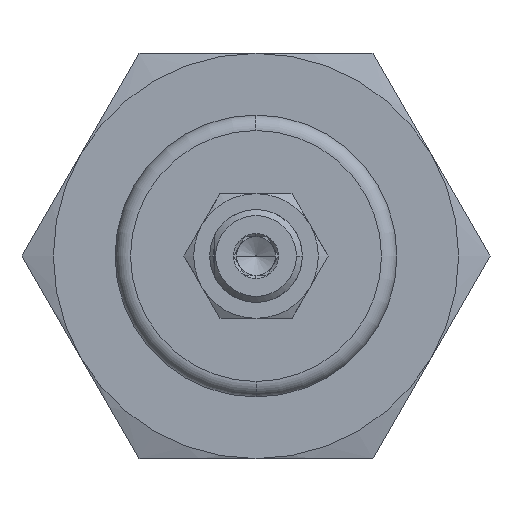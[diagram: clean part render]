
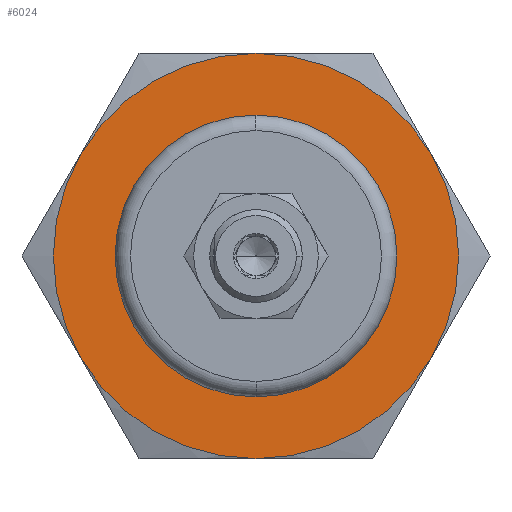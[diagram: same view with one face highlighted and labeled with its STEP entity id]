
A CAD part, left-side view. The second image highlights one B-rep face of the part: STEP entity #6024.
In plain terms, the highlighted planar face has unit normal (-1, 0, 0).
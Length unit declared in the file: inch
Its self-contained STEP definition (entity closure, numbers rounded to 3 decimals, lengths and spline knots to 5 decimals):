
#102=CARTESIAN_POINT('',(-0.63,0.565,0.));
#103=VERTEX_POINT('',#102);
#128=CARTESIAN_POINT('',(-0.63,-0.565,0.));
#129=VERTEX_POINT('',#128);
#136=CARTESIAN_POINT('',(-0.63,0.0,0.));
#137=DIRECTION('',(1.0,0.0,0.0));
#138=DIRECTION('',(0.0,1.0,0.0));
#139=AXIS2_PLACEMENT_3D('',#136,#137,#138);
#140=CIRCLE('',#139,0.565);
#141=EDGE_CURVE('',#103,#129,#140,.T.);
#5388=CARTESIAN_POINT('',(-0.63,0.0,0.));
#5389=DIRECTION('',(1.0,0.0,0.0));
#5390=DIRECTION('',(0.0,1.0,0.0));
#5391=AXIS2_PLACEMENT_3D('',#5388,#5389,#5390);
#5392=CIRCLE('',#5391,0.565);
#5393=EDGE_CURVE('',#129,#103,#5392,.T.);
#5429=CARTESIAN_POINT('',(-0.63,0.70365,0.40625));
#5430=VERTEX_POINT('',#5429);
#5511=CARTESIAN_POINT('',(-0.63,0.70365,-0.40625));
#5512=VERTEX_POINT('',#5511);
#5575=CARTESIAN_POINT('',(-0.63,0.0,0.8125));
#5576=VERTEX_POINT('',#5575);
#5670=CARTESIAN_POINT('',(-0.63,0.0,-0.8125));
#5671=VERTEX_POINT('',#5670);
#5743=CARTESIAN_POINT('',(-0.63,-0.70365,-0.40625));
#5744=VERTEX_POINT('',#5743);
#5807=CARTESIAN_POINT('',(-0.63,-0.70365,0.40625));
#5808=VERTEX_POINT('',#5807);
#5845=CARTESIAN_POINT('',(-0.63,0.0,0.));
#5846=DIRECTION('',(-1.0,0.0,0.0));
#5847=DIRECTION('',(0.0,0.0,1.0));
#5848=AXIS2_PLACEMENT_3D('',#5845,#5846,#5847);
#5849=CIRCLE('',#5848,0.8125);
#5850=EDGE_CURVE('',#5512,#5671,#5849,.T.);
#5862=CARTESIAN_POINT('',(-0.63,0.0,0.));
#5863=DIRECTION('',(-1.0,0.0,0.0));
#5864=DIRECTION('',(0.0,0.0,1.0));
#5865=AXIS2_PLACEMENT_3D('',#5862,#5863,#5864);
#5866=CIRCLE('',#5865,0.8125);
#5867=EDGE_CURVE('',#5671,#5744,#5866,.T.);
#5879=CARTESIAN_POINT('',(-0.63,0.0,0.));
#5880=DIRECTION('',(-1.0,0.0,0.0));
#5881=DIRECTION('',(0.0,0.0,1.0));
#5882=AXIS2_PLACEMENT_3D('',#5879,#5880,#5881);
#5883=CIRCLE('',#5882,0.8125);
#5884=EDGE_CURVE('',#5744,#5808,#5883,.T.);
#5897=CARTESIAN_POINT('',(-0.63,0.0,0.));
#5898=DIRECTION('',(-1.0,0.0,0.0));
#5899=DIRECTION('',(0.0,0.0,1.0));
#5900=AXIS2_PLACEMENT_3D('',#5897,#5898,#5899);
#5901=CIRCLE('',#5900,0.8125);
#5902=EDGE_CURVE('',#5808,#5576,#5901,.T.);
#5914=CARTESIAN_POINT('',(-0.63,0.0,0.));
#5915=DIRECTION('',(-1.0,0.0,0.0));
#5916=DIRECTION('',(0.0,0.0,1.0));
#5917=AXIS2_PLACEMENT_3D('',#5914,#5915,#5916);
#5918=CIRCLE('',#5917,0.8125);
#5919=EDGE_CURVE('',#5576,#5430,#5918,.T.);
#5931=CARTESIAN_POINT('',(-0.63,0.0,0.));
#5932=DIRECTION('',(-1.0,0.0,0.0));
#5933=DIRECTION('',(0.0,0.0,1.0));
#5934=AXIS2_PLACEMENT_3D('',#5931,#5932,#5933);
#5935=CIRCLE('',#5934,0.8125);
#5936=EDGE_CURVE('',#5430,#5512,#5935,.T.);
#6007=CARTESIAN_POINT('',(-0.63,0.,0.));
#6008=DIRECTION('',(-1.0,0.0,0.0));
#6009=DIRECTION('',(0.0,0.0,1.0));
#6010=AXIS2_PLACEMENT_3D('',#6007,#6008,#6009);
#6011=PLANE('',#6010);
#6012=ORIENTED_EDGE('',*,*,#5850,.T.);
#6013=ORIENTED_EDGE('',*,*,#5867,.T.);
#6014=ORIENTED_EDGE('',*,*,#5884,.T.);
#6015=ORIENTED_EDGE('',*,*,#5902,.T.);
#6016=ORIENTED_EDGE('',*,*,#5919,.T.);
#6017=ORIENTED_EDGE('',*,*,#5936,.T.);
#6018=EDGE_LOOP('',(#6012,#6013,#6014,#6015,#6016,#6017));
#6019=FACE_OUTER_BOUND('',#6018,.T.);
#6020=ORIENTED_EDGE('',*,*,#141,.T.);
#6021=ORIENTED_EDGE('',*,*,#5393,.T.);
#6022=EDGE_LOOP('',(#6020,#6021));
#6023=FACE_BOUND('',#6022,.T.);
#6024=ADVANCED_FACE('',(#6019,#6023),#6011,.T.);
